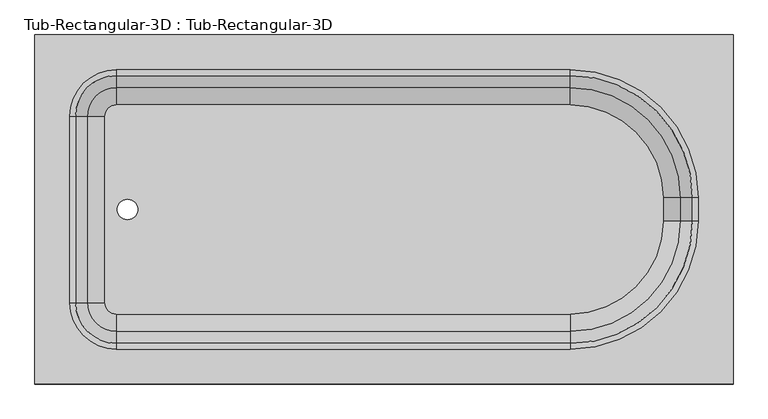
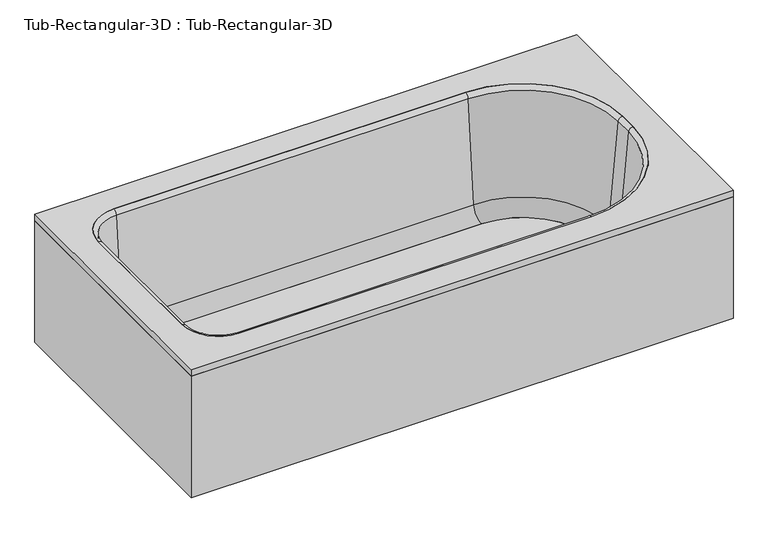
"""IFC4 building model written with IfcOpenShell, lengths in millimetres: flow terminal geometry, Tub-Rectangular-3D : Tub-Rectangular-3D."""

from ifc_helpers import new_model, si_unit, point, frame, frame_2d, origin, origin_with_axes, place, context, project, spatial, polyline, circle_curve, ellipse_curve, trimmed, segment, composite_curve, outline, extrude, source, transform, mapped, element, save
from ifc_brep_helpers import plane_surface, cylinder_surface, revolved_surface, advanced_brep


def tub_rectangular_3d_tub_rectangular_3d_98eb9c7c(model_context):
    return source(origin(), model_context, "Body", "SolidModel", [
        extrude(outline(polyline([(413.3970313, 938.2125), (413.3970313, 176.2125), (-1110.6029687, 176.2125), (-1110.6029687, 938.2125), (413.3970313, 938.2125)]), holes=[composite_curve([segment(trimmed(circle_curve(frame_2d((-932.8029687, 760.4125)), 101.6), [point((-932.8029687, 862.0125))], [point((-1034.4029687, 760.4125))], True, "CARTESIAN"), True, "CONTINUOUS"), segment(polyline([(-1034.4029687, 760.4125), (-1034.4029687, 354.0125)]), True, "CONTINUOUS"), segment(trimmed(circle_curve(frame_2d((-932.8029687, 354.0125)), 101.6), [point((-1034.4029687, 354.0125))], [point((-932.8029687, 252.4125))], True, "CARTESIAN"), True, "CONTINUOUS"), segment(polyline([(-932.8029687, 252.4125), (57.7970313, 252.4125)]), True, "CONTINUOUS"), segment(trimmed(circle_curve(frame_2d((57.7970313, 531.8125)), 279.4), [point((57.7970313, 252.4125))], [point((337.1970313, 531.8125))], True, "CARTESIAN"), True, "CONTINUOUS"), segment(polyline([(337.1970313, 531.8125), (337.1970313, 582.6125)]), True, "CONTINUOUS"), segment(trimmed(circle_curve(frame_2d((57.7970313, 582.6125)), 279.4), [point((337.1970313, 582.6125))], [point((57.7970313, 862.0125))], True, "CARTESIAN"), True, "CONTINUOUS"), segment(polyline([(57.7970313, 862.0125), (-932.8029687, 862.0125)]), True, "CONTINUOUS")], self_intersect=False)]), frame((0.0, 0.0, 361.95), z_axis=(0.0, 0.0, 1.0), x_axis=(1.0, 0.0, 0.0)), (0.0, 0.0, 1.0), 19.05),
        extrude(outline(polyline([(413.3970313, 938.2125), (413.3970313, 176.2125), (-1110.6029687, 176.2125), (-1110.6029687, 938.2125), (413.3970313, 938.2125)]), holes=[polyline([(394.3470313, 919.1625), (-1091.5529687, 919.1625), (-1091.5529687, 195.2625), (394.3470313, 195.2625), (394.3470313, 919.1625)])]), origin_with_axes(), (0.0, 0.0, 1.0), 361.95),
        extrude(outline(composite_curve([segment(trimmed(circle_curve(frame_2d((57.7970313, 582.6125)), 202.7964741), [point((57.7970313, 785.4089741))], [point((260.5935054, 582.6125))], False, "CARTESIAN"), True, "CONTINUOUS"), segment(polyline([(260.5935054, 582.6125), (260.5935054, 531.8125)]), True, "CONTINUOUS"), segment(trimmed(circle_curve(frame_2d((57.7970313, 531.8125)), 202.7964741), [point((260.5935054, 531.8125))], [point((57.7970313, 329.0160259))], False, "CARTESIAN"), True, "CONTINUOUS"), segment(polyline([(57.7970313, 329.0160259), (-932.8029687, 329.0160259)]), True, "CONTINUOUS"), segment(trimmed(circle_curve(frame_2d((-932.8029687, 354.0125)), 24.9964741), [point((-932.8029687, 329.0160259))], [point((-957.7994428, 354.0125))], False, "CARTESIAN"), True, "CONTINUOUS"), segment(polyline([(-957.7994428, 354.0125), (-957.7994428, 760.4125)]), True, "CONTINUOUS"), segment(trimmed(circle_curve(frame_2d((-932.8029687, 760.4125)), 24.9964741), [point((-957.7994428, 760.4125))], [point((-932.8029687, 785.4089741))], False, "CARTESIAN"), True, "CONTINUOUS"), segment(polyline([(-932.8029687, 785.4089741), (57.7970313, 785.4089741)]), True, "CONTINUOUS")], self_intersect=False), holes=[composite_curve([segment(trimmed(circle_curve(frame_2d((-908.510206, 557.2125)), 22.225), [point((-908.510206, 579.4375))], [point((-908.510206, 534.9875))], True, "CARTESIAN"), True, "CONTINUOUS"), segment(trimmed(circle_curve(frame_2d((-908.510206, 557.2125)), 22.225), [point((-908.510206, 534.9875))], [point((-908.510206, 579.4375))], True, "CARTESIAN"), True, "CONTINUOUS")], self_intersect=False)]), frame((0.0, 0.0, 16.863573), z_axis=(0.0, 0.0, 1.0), x_axis=(1.0, 0.0, 0.0)), (0.0, 0.0, 1.0), 19.05),
        advanced_brep(
        [(-995.7544608, 760.4125, 70.6929392), (-932.8029687, 823.3639921, 70.6929392), (-932.8029687, 849.5345035, 369.8232535), (-1021.9249722, 760.4125, 369.8232535), (-957.7994428, 760.4125, 35.913573), (-932.8029687, 785.4089741, 35.913573), (-957.7994428, 760.4125, 16.863573), (-932.8029687, 785.4089741, 16.863573), (-1034.4029687, 760.4125, 16.863573), (-932.8029687, 862.0125, 16.863573), (-1034.4029687, 760.4125, 381.0), (-932.8029687, 862.0125, 381.0), (-1021.9249722, 354.0125, 369.8232535), (-995.7544608, 354.0125, 70.6929392), (-957.7994428, 354.0125, 35.913573), (-957.7994428, 354.0125, 16.863573), (-1034.4029687, 354.0125, 16.863573), (-1034.4029687, 354.0125, 381.0), (-932.8029687, 291.0610079, 70.6929392), (-932.8029687, 264.8904965, 369.8232535), (-932.8029687, 329.0160259, 35.913573), (-932.8029687, 329.0160259, 16.863573), (-932.8029687, 252.4125, 16.863573), (-932.8029687, 252.4125, 381.0), (57.7970313, 264.8904965, 369.8232535), (57.7970313, 291.0610079, 70.6929392), (57.7970313, 329.0160259, 35.913573), (57.7970313, 329.0160259, 16.863573), (57.7970313, 252.4125, 16.863573), (57.7970313, 252.4125, 381.0), (298.5485234, 531.8125, 70.6929392), (324.7190348, 531.8125, 369.8232535), (260.5935054, 531.8125, 35.913573), (260.5935054, 531.8125, 16.863573), (337.1970313, 531.8125, 16.863573), (337.1970313, 531.8125, 381.0), (324.7190348, 582.6125, 369.8232535), (298.5485234, 582.6125, 70.6929392), (260.5935054, 582.6125, 35.913573), (260.5935054, 582.6125, 16.863573), (337.1970313, 582.6125, 16.863573), (337.1970313, 582.6125, 381.0), (57.7970313, 823.3639921, 70.6929392), (57.7970313, 849.5345035, 369.8232535), (57.7970313, 785.4089741, 35.913573), (57.7970313, 785.4089741, 16.863573), (57.7970313, 862.0125, 16.863573), (57.7970313, 862.0125, 381.0)],
        [
            (0, 1, circle_curve(frame((-932.8029687, 760.4125, 70.6929392), z_axis=(0.0, 0.0, -1.0), x_axis=(0.0, 1.0, 0.0)), 62.9514921)),
            (1, 2),
            (2, 3, circle_curve(frame((-932.8029687, 760.4125, 369.8232535), z_axis=(0.0, 0.0, 1.0), x_axis=(0.0, 1.0, 0.0)), 89.1220035)),
            (3, 0),
            (4, 5, circle_curve(frame((-932.8029687, 760.4125, 35.913573), z_axis=(0.0, 0.0, -1.0), x_axis=(0.0, 1.0, 0.0)), 24.9964741)),
            (5, 1, circle_curve(frame((-932.8029687, 785.4089741, 74.013573), z_axis=(1.0, 0.0, 0.0), x_axis=(0.0, -1.0, 0.0)), 38.1)),
            (0, 4, circle_curve(frame((-957.7994428, 760.4125, 74.013573), z_axis=(0.0, -1.0, 0.0), x_axis=(1.0, 0.0, 0.0)), 38.1)),
            (6, 7, circle_curve(frame((-932.8029687, 760.4125, 16.863573), z_axis=(0.0, 0.0, -1.0), x_axis=(0.0, 1.0, 0.0)), 24.9964741)),
            (7, 5),
            (4, 6),
            (8, 9, circle_curve(frame((-932.8029687, 760.4125, 16.863573), z_axis=(0.0, 0.0, -1.0), x_axis=(0.0, 1.0, 0.0)), 101.6)),
            (9, 7),
            (6, 8),
            (10, 11, circle_curve(frame((-932.8029687, 760.4125, 381.0), z_axis=(0.0, 0.0, -1.0), x_axis=(0.0, 1.0, 0.0)), 101.6)),
            (11, 9),
            (8, 10),
            (2, 11, circle_curve(frame((-932.8029687, 862.0125, 368.4462547), z_axis=(-1.0, 0.0, 0.0), x_axis=(0.0, -1.0, 0.0)), 12.5537453)),
            (10, 3, circle_curve(frame((-1034.4029687, 760.4125, 368.4462547), z_axis=(0.0, 1.0, 0.0), x_axis=(1.0, 0.0, 0.0)), 12.5537453)),
            (3, 12),
            (12, 13),
            (13, 0),
            (13, 14, circle_curve(frame((-957.7994428, 354.0125, 74.013573), z_axis=(0.0, -1.0, 0.0), x_axis=(1.0, 0.0, 0.0)), 38.1)),
            (14, 4),
            (14, 15),
            (15, 6),
            (15, 16),
            (16, 8),
            (16, 17),
            (17, 10),
            (17, 12, circle_curve(frame((-1034.4029687, 354.0125, 368.4462547), z_axis=(0.0, 1.0, 0.0), x_axis=(1.0, 0.0, 0.0)), 12.5537453)),
            (18, 13, circle_curve(frame((-932.8029687, 354.0125, 70.6929392), z_axis=(0.0, 0.0, -1.0), x_axis=(-1.0, 0.0, 0.0)), 62.9514921)),
            (12, 19, circle_curve(frame((-932.8029687, 354.0125, 369.8232535), z_axis=(0.0, 0.0, 1.0), x_axis=(-1.0, 0.0, 0.0)), 89.1220035)),
            (19, 18),
            (20, 14, circle_curve(frame((-932.8029687, 354.0125, 35.913573), z_axis=(0.0, 0.0, -1.0), x_axis=(-1.0, 0.0, 0.0)), 24.9964741)),
            (18, 20, circle_curve(frame((-932.8029687, 329.0160259, 74.013573), z_axis=(1.0, 0.0, 0.0), x_axis=(0.0, 1.0, 0.0)), 38.1)),
            (21, 15, circle_curve(frame((-932.8029687, 354.0125, 16.863573), z_axis=(0.0, 0.0, -1.0), x_axis=(-1.0, 0.0, 0.0)), 24.9964741)),
            (20, 21),
            (22, 16, circle_curve(frame((-932.8029687, 354.0125, 16.863573), z_axis=(0.0, 0.0, -1.0), x_axis=(-1.0, 0.0, 0.0)), 101.6)),
            (21, 22),
            (23, 17, circle_curve(frame((-932.8029687, 354.0125, 381.0), z_axis=(0.0, 0.0, -1.0), x_axis=(-1.0, 0.0, 0.0)), 101.6)),
            (22, 23),
            (23, 19, circle_curve(frame((-932.8029687, 252.4125, 368.4462547), z_axis=(-1.0, 0.0, 0.0), x_axis=(0.0, 1.0, 0.0)), 12.5537453)),
            (19, 24),
            (24, 25),
            (25, 18),
            (25, 26, circle_curve(frame((57.7970313, 329.0160259, 74.013573), z_axis=(1.0, 0.0, 0.0), x_axis=(0.0, 1.0, 0.0)), 38.1)),
            (26, 20),
            (26, 27),
            (27, 21),
            (27, 28),
            (28, 22),
            (28, 29),
            (29, 23),
            (29, 24, circle_curve(frame((57.7970313, 252.4125, 368.4462547), z_axis=(-1.0, 0.0, 0.0), x_axis=(0.0, 1.0, 0.0)), 12.5537453)),
            (30, 25, circle_curve(frame((57.7970313, 531.8125, 70.6929392), z_axis=(0.0, 0.0, -1.0), x_axis=(0.0, -1.0, 0.0)), 240.7514921)),
            (24, 31, circle_curve(frame((57.7970313, 531.8125, 369.8232535), z_axis=(0.0, 0.0, 1.0), x_axis=(0.0, -1.0, 0.0)), 266.9220035)),
            (31, 30),
            (32, 26, circle_curve(frame((57.7970313, 531.8125, 35.913573), z_axis=(0.0, 0.0, -1.0), x_axis=(0.0, -1.0, 0.0)), 202.7964741)),
            (30, 32, circle_curve(frame((260.5935054, 531.8125, 74.013573), z_axis=(0.0, 1.0, 0.0), x_axis=(-1.0, 0.0, 0.0)), 38.1)),
            (33, 27, circle_curve(frame((57.7970313, 531.8125, 16.863573), z_axis=(0.0, 0.0, -1.0), x_axis=(0.0, -1.0, 0.0)), 202.7964741)),
            (32, 33),
            (34, 28, circle_curve(frame((57.7970313, 531.8125, 16.863573), z_axis=(0.0, 0.0, -1.0), x_axis=(0.0, -1.0, 0.0)), 279.4)),
            (33, 34),
            (35, 29, circle_curve(frame((57.7970313, 531.8125, 381.0), z_axis=(0.0, 0.0, -1.0), x_axis=(0.0, -1.0, 0.0)), 279.4)),
            (34, 35),
            (35, 31, circle_curve(frame((337.1970313, 531.8125, 368.4462547), z_axis=(0.0, -1.0, 0.0), x_axis=(-1.0, 0.0, 0.0)), 12.5537453)),
            (31, 36),
            (36, 37),
            (37, 30),
            (37, 38, circle_curve(frame((260.5935054, 582.6125, 74.013573), z_axis=(0.0, 1.0, 0.0), x_axis=(-1.0, 0.0, 0.0)), 38.1)),
            (38, 32),
            (38, 39),
            (39, 33),
            (39, 40),
            (40, 34),
            (40, 41),
            (41, 35),
            (41, 36, circle_curve(frame((337.1970313, 582.6125, 368.4462547), z_axis=(0.0, -1.0, 0.0), x_axis=(-1.0, 0.0, 0.0)), 12.5537453)),
            (42, 37, circle_curve(frame((57.7970313, 582.6125, 70.6929392), z_axis=(0.0, 0.0, -1.0), x_axis=(1.0, 0.0, 0.0)), 240.7514921)),
            (36, 43, circle_curve(frame((57.7970313, 582.6125, 369.8232535), z_axis=(0.0, 0.0, 1.0), x_axis=(1.0, 0.0, 0.0)), 266.9220035)),
            (43, 42),
            (44, 38, circle_curve(frame((57.7970313, 582.6125, 35.913573), z_axis=(0.0, 0.0, -1.0), x_axis=(1.0, 0.0, 0.0)), 202.7964741)),
            (42, 44, circle_curve(frame((57.7970313, 785.4089741, 74.013573), z_axis=(-1.0, 0.0, 0.0), x_axis=(0.0, -1.0, 0.0)), 38.1)),
            (45, 39, circle_curve(frame((57.7970313, 582.6125, 16.863573), z_axis=(0.0, 0.0, -1.0), x_axis=(1.0, 0.0, 0.0)), 202.7964741)),
            (44, 45),
            (46, 40, circle_curve(frame((57.7970313, 582.6125, 16.863573), z_axis=(0.0, 0.0, -1.0), x_axis=(1.0, 0.0, 0.0)), 279.4)),
            (45, 46),
            (47, 41, circle_curve(frame((57.7970313, 582.6125, 381.0), z_axis=(0.0, 0.0, -1.0), x_axis=(1.0, 0.0, 0.0)), 279.4)),
            (46, 47),
            (47, 43, circle_curve(frame((57.7970313, 862.0125, 368.4462547), z_axis=(1.0, 0.0, 0.0), x_axis=(0.0, -1.0, 0.0)), 12.5537453)),
            (43, 2),
            (1, 42),
            (5, 44),
            (7, 45),
            (9, 46),
            (11, 47),
        ],
        [
            revolved_surface(polyline([(-932.8029687, 849.5345035, 369.8232535), (-932.8029687, 823.3639921, 70.6929392)]), (-932.8029687, 760.4125, 381.0), (0.0, 0.0, 1.0)),
            revolved_surface(trimmed(ellipse_curve(frame((-932.8029687, 785.4089741, 74.013573), z_axis=(-1.0, 0.0, 0.0), x_axis=(0.0, -1.0, 0.0)), 38.1, 38.1), [point((-932.8029687, 823.3639921, 70.6929392))], [point((-932.8029687, 785.4089741, 35.913573))], True, "CARTESIAN"), (-932.8029687, 760.4125, 381.0), (0.0, 0.0, 1.0)),
            revolved_surface(polyline([(-932.8029687, 785.4089741, 35.913572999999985), (-932.8029687, 785.4089741, 16.863572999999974)]), (-932.8029687, 760.4125, 381.0), (0.0, 0.0, 1.0)),
            plane_surface(frame((-932.8029687, 760.4125, 16.863573), z_axis=(0.0, 0.0, -1.0), x_axis=(0.0, 1.0, 0.0))),
            cylinder_surface(frame((-932.8029687, 760.4125, 381.0), z_axis=(0.0, 0.0, 1.0), x_axis=(0.0, 1.0, 0.0)), 101.6),
            revolved_surface(trimmed(ellipse_curve(frame((-932.8029687, 862.0125, 368.4462547), z_axis=(1.0, 0.0, 0.0), x_axis=(0.0, -1.0, 0.0)), 12.5537453, 12.5537453), [point((-932.8029687, 862.0125, 381.0))], [point((-932.8029687, 849.5345035, 369.8232535))], True, "CARTESIAN"), (-932.8029687, 760.4125, 381.0), (0.0, 0.0, 1.0)),
            plane_surface(frame((-1021.9249722, 760.4125, 369.8232535), z_axis=(0.9961946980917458, 0.0, 0.08715574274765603), x_axis=(0.0, -1.0, 0.0))),
            revolved_surface(polyline([(-919.6994427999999, 354.0125, 74.013573), (-919.6994427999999, 760.4125, 74.013573)]), (-957.7994428, 760.4125, 74.013573), (0.0, -1.0, 0.0)),
            plane_surface(frame((-957.7994428, 760.4125, 35.913573), z_axis=(1.0, 0.0, 0.0), x_axis=(0.0, -1.0, 0.0))),
            plane_surface(frame((-957.7994428, 760.4125, 16.863573), z_axis=(0.0, 0.0, -1.0), x_axis=(0.0, -1.0, 0.0))),
            plane_surface(frame((-1034.4029687, 760.4125, 16.863573), z_axis=(-1.0, 0.0, 0.0), x_axis=(0.0, -1.0, 0.0))),
            cylinder_surface(frame((-1034.4029687, 760.4125, 368.4462547), z_axis=(0.0, 1.0, 0.0), x_axis=(1.0, 0.0, 0.0)), 12.5537453),
            revolved_surface(polyline([(-1021.9249722, 354.0125, 369.8232535), (-995.7544608, 354.0125, 70.6929392)]), (-932.8029687, 354.0125, 381.0), (0.0, 0.0, 1.0)),
            revolved_surface(trimmed(ellipse_curve(frame((-957.7994428, 354.0125, 74.013573), z_axis=(0.0, -1.0, 0.0), x_axis=(1.0, 0.0, 0.0)), 38.1, 38.1), [point((-995.7544608, 354.0125, 70.6929392))], [point((-957.7994428, 354.0125, 35.913573))], True, "CARTESIAN"), (-932.8029687, 354.0125, 381.0), (0.0, 0.0, 1.0)),
            revolved_surface(polyline([(-957.7994428, 354.0125, 35.913572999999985), (-957.7994428, 354.0125, 16.863572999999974)]), (-932.8029687, 354.0125, 381.0), (0.0, 0.0, 1.0)),
            plane_surface(frame((-932.8029687, 354.0125, 16.863573), z_axis=(0.0, 0.0, -1.0), x_axis=(-1.0, 0.0, 0.0))),
            cylinder_surface(frame((-932.8029687, 354.0125, 381.0), z_axis=(0.0, 0.0, 1.0), x_axis=(-1.0, 0.0, 0.0)), 101.6),
            revolved_surface(trimmed(ellipse_curve(frame((-1034.4029687, 354.0125, 368.4462547), z_axis=(0.0, 1.0, 0.0), x_axis=(1.0, 0.0, 0.0)), 12.5537453, 12.5537453), [point((-1034.4029687, 354.0125, 381.0))], [point((-1021.9249722, 354.0125, 369.8232535))], True, "CARTESIAN"), (-932.8029687, 354.0125, 381.0), (0.0, 0.0, 1.0)),
            plane_surface(frame((-932.8029687, 264.8904965, 369.8232535), z_axis=(0.0, 0.9961946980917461, 0.0871557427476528), x_axis=(1.0, 0.0, 0.0))),
            revolved_surface(polyline([(57.79703129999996, 367.1160259, 74.013573), (-932.8029687, 367.1160259, 74.013573)]), (-932.8029687, 329.0160259, 74.013573), (1.0, 0.0, 0.0)),
            plane_surface(frame((-932.8029687, 329.0160259, 35.913573), z_axis=(0.0, 1.0, 0.0), x_axis=(1.0, 0.0, 0.0))),
            plane_surface(frame((-932.8029687, 329.0160259, 16.863573), z_axis=(0.0, 0.0, -1.0), x_axis=(1.0, 0.0, 0.0))),
            plane_surface(frame((-932.8029687, 252.4125, 16.863573), z_axis=(0.0, -1.0, 0.0), x_axis=(1.0, 0.0, 0.0))),
            cylinder_surface(frame((-932.8029687, 252.4125, 368.4462547), z_axis=(-1.0, 0.0, 0.0), x_axis=(0.0, 1.0, 0.0)), 12.5537453),
            revolved_surface(polyline([(57.7970313, 264.8904965, 369.8232535), (57.7970313, 291.0610079, 70.6929392)]), (57.7970313, 531.8125, 381.0), (0.0, 0.0, 1.0)),
            revolved_surface(trimmed(ellipse_curve(frame((57.7970313, 329.0160259, 74.013573), z_axis=(1.0, 0.0, 0.0), x_axis=(0.0, 1.0, 0.0)), 38.1, 38.1), [point((57.7970313, 291.0610079, 70.6929392))], [point((57.7970313, 329.0160259, 35.913573))], True, "CARTESIAN"), (57.7970313, 531.8125, 381.0), (0.0, 0.0, 1.0)),
            revolved_surface(polyline([(57.7970313, 329.0160259, 35.913572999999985), (57.7970313, 329.0160259, 16.863572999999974)]), (57.7970313, 531.8125, 381.0), (0.0, 0.0, 1.0)),
            plane_surface(frame((57.7970313, 531.8125, 16.863573), z_axis=(0.0, 0.0, -1.0), x_axis=(0.0, -1.0, 0.0))),
            cylinder_surface(frame((57.7970313, 531.8125, 381.0), z_axis=(0.0, 0.0, 1.0), x_axis=(0.0, -1.0, 0.0)), 279.4),
            revolved_surface(trimmed(ellipse_curve(frame((57.7970313, 252.4125, 368.4462547), z_axis=(-1.0, 0.0, 0.0), x_axis=(0.0, 1.0, 0.0)), 12.5537453, 12.5537453), [point((57.7970313, 252.4125, 381.0))], [point((57.7970313, 264.8904965, 369.8232535))], True, "CARTESIAN"), (57.7970313, 531.8125, 381.0), (0.0, 0.0, 1.0)),
            plane_surface(frame((324.7190348, 531.8125, 369.8232535), z_axis=(-0.9961946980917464, 0.0, 0.08715574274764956), x_axis=(0.0, 1.0, 0.0))),
            revolved_surface(polyline([(222.49350540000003, 582.6125, 74.013573), (222.49350540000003, 531.8125, 74.013573)]), (260.5935054, 531.8125, 74.013573), (0.0, 1.0, 0.0)),
            plane_surface(frame((260.5935054, 531.8125, 35.913573), z_axis=(-1.0, 0.0, 0.0), x_axis=(0.0, 1.0, 0.0))),
            plane_surface(frame((260.5935054, 531.8125, 16.863573), z_axis=(0.0, 0.0, -1.0), x_axis=(0.0, 1.0, 0.0))),
            plane_surface(frame((337.1970313, 531.8125, 16.863573), z_axis=(1.0, 0.0, 0.0), x_axis=(0.0, 1.0, 0.0))),
            cylinder_surface(frame((337.1970313, 531.8125, 368.4462547), z_axis=(0.0, -1.0, 0.0), x_axis=(-1.0, 0.0, 0.0)), 12.5537453),
            revolved_surface(polyline([(324.7190348, 582.6125, 369.8232535), (298.5485234, 582.6125, 70.6929392)]), (57.7970313, 582.6125, 381.0), (0.0, 0.0, 1.0)),
            revolved_surface(trimmed(ellipse_curve(frame((260.5935054, 582.6125, 74.013573), z_axis=(0.0, 1.0, 0.0), x_axis=(-1.0, 0.0, 0.0)), 38.1, 38.1), [point((298.5485234, 582.6125, 70.6929392))], [point((260.5935054, 582.6125, 35.913573))], True, "CARTESIAN"), (57.7970313, 582.6125, 381.0), (0.0, 0.0, 1.0)),
            revolved_surface(polyline([(260.5935054, 582.6125, 35.913572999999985), (260.5935054, 582.6125, 16.863572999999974)]), (57.7970313, 582.6125, 381.0), (0.0, 0.0, 1.0)),
            plane_surface(frame((57.7970313, 582.6125, 16.863573), z_axis=(0.0, 0.0, -1.0), x_axis=(1.0, 0.0, 0.0))),
            cylinder_surface(frame((57.7970313, 582.6125, 381.0), z_axis=(0.0, 0.0, 1.0), x_axis=(1.0, 0.0, 0.0)), 279.4),
            revolved_surface(trimmed(ellipse_curve(frame((337.1970313, 582.6125, 368.4462547), z_axis=(0.0, -1.0, 0.0), x_axis=(-1.0, 0.0, 0.0)), 12.5537453, 12.5537453), [point((337.1970313, 582.6125, 381.0))], [point((324.7190348, 582.6125, 369.8232535))], True, "CARTESIAN"), (57.7970313, 582.6125, 381.0), (0.0, 0.0, 1.0)),
            plane_surface(frame((57.7970313, 849.5345035, 369.8232535), z_axis=(0.0, -0.9961946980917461, 0.0871557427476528), x_axis=(-1.0, 0.0, 0.0))),
            revolved_surface(polyline([(-932.8029687, 747.3089741, 74.013573), (57.7970313, 747.3089741, 74.013573)]), (57.7970313, 785.4089741, 74.013573), (-1.0, 0.0, 0.0)),
            plane_surface(frame((57.7970313, 785.4089741, 35.913573), z_axis=(0.0, -1.0, 0.0), x_axis=(-1.0, 0.0, 0.0))),
            plane_surface(frame((57.7970313, 785.4089741, 16.863573), z_axis=(0.0, 0.0, -1.0), x_axis=(-1.0, 0.0, 0.0))),
            plane_surface(frame((57.7970313, 862.0125, 16.863573), z_axis=(0.0, 1.0, 0.0), x_axis=(-1.0, 0.0, 0.0))),
            cylinder_surface(frame((57.7970313, 862.0125, 368.4462547), z_axis=(1.0, 0.0, 0.0), x_axis=(0.0, -1.0, 0.0)), 12.5537453),
        ],
        [
            (0, [[1, 2, 3, 4]]),
            (1, [[5, 6, -1, 7]]),
            (2, [[8, 9, -5, 10]]),
            (3, [[11, 12, -8, 13]]),
            (4, [[14, 15, -11, 16]]),
            (5, [[-3, 17, -14, 18]]),
            (6, [[-4, 19, 20, 21]]),
            (7, [[-7, -21, 22, 23]]),
            (8, [[-10, -23, 24, 25]]),
            (9, [[-13, -25, 26, 27]]),
            (10, [[-16, -27, 28, 29]]),
            (11, [[-18, -29, 30, -19]]),
            (12, [[31, -20, 32, 33]]),
            (13, [[34, -22, -31, 35]]),
            (14, [[36, -24, -34, 37]]),
            (15, [[38, -26, -36, 39]]),
            (16, [[40, -28, -38, 41]]),
            (17, [[-32, -30, -40, 42]]),
            (18, [[-33, 43, 44, 45]]),
            (19, [[-35, -45, 46, 47]]),
            (20, [[-37, -47, 48, 49]]),
            (21, [[-39, -49, 50, 51]]),
            (22, [[-41, -51, 52, 53]]),
            (23, [[-42, -53, 54, -43]]),
            (24, [[55, -44, 56, 57]]),
            (25, [[58, -46, -55, 59]]),
            (26, [[60, -48, -58, 61]]),
            (27, [[62, -50, -60, 63]]),
            (28, [[64, -52, -62, 65]]),
            (29, [[-56, -54, -64, 66]]),
            (30, [[-57, 67, 68, 69]]),
            (31, [[-59, -69, 70, 71]]),
            (32, [[-61, -71, 72, 73]]),
            (33, [[-63, -73, 74, 75]]),
            (34, [[-65, -75, 76, 77]]),
            (35, [[-66, -77, 78, -67]]),
            (36, [[79, -68, 80, 81]]),
            (37, [[82, -70, -79, 83]]),
            (38, [[84, -72, -82, 85]]),
            (39, [[86, -74, -84, 87]]),
            (40, [[88, -76, -86, 89]]),
            (41, [[-80, -78, -88, 90]]),
            (42, [[-81, 91, -2, 92]]),
            (43, [[-83, -92, -6, 93]]),
            (44, [[-85, -93, -9, 94]]),
            (45, [[-87, -94, -12, 95]]),
            (46, [[-89, -95, -15, 96]]),
            (47, [[-90, -96, -17, -91]]),
        ],
    ),
    ])


if __name__ == "__main__":
    model = new_model("IFC4")
    model_context = context("Model", 3, world=origin())
    ifc_project = project(units=[si_unit("LENGTHUNIT", "METRE", prefix="MILLI")], contexts=[model_context])
    site = spatial("IfcSite", under=ifc_project)
    building = spatial("IfcBuilding", under=site)
    placement = place(None, origin())
    tub_rectangular_3d_tub_rectangular_3d_shape = tub_rectangular_3d_tub_rectangular_3d_98eb9c7c(model_context)
    element("IfcFlowTerminal", 1, ObjectType="Tub-Rectangular-3D : Tub-Rectangular-3D", at=placement, inside=building, context=model_context, shape_type="MappedRepresentation", body=[
        mapped(tub_rectangular_3d_tub_rectangular_3d_shape, transform((0.0, 0.0, 0.0), x_axis=(1.0, 0.0, 0.0), y_axis=(0.0, 1.0, 0.0), z_axis=(0.0, 0.0, 1.0))),
    ])
    save(model, "model.ifc")
